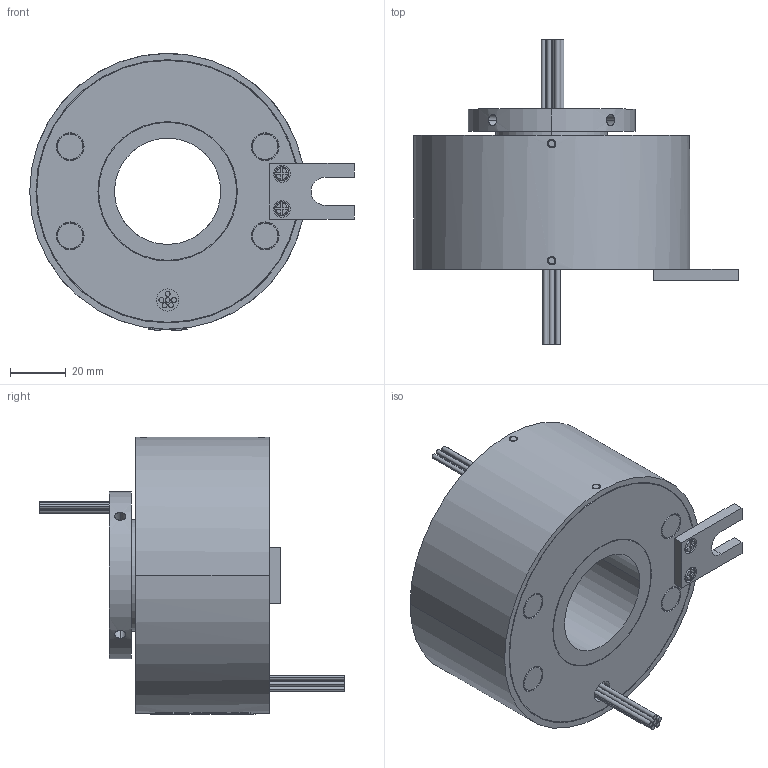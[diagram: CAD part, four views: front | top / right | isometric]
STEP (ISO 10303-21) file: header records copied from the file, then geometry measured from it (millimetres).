
FILE_DESCRIPTION(/* description */ (''),/* implementation_level */ '2;1');
FILE_NAME(/* name */ 'HD3899-0610.stp',/* time_stamp */ '2025-01-19T09:34:52+08:00',/* author */ (''),/* organization */ (''),/* preprocessor_version */ 'ST-DEVELOPER v16.7',/* originating_system */ 'SIEMENS PLM Software NX 12.0',/* authorisation */ '');
FILE_SCHEMA (('AUTOMOTIVE_DESIGN { 1 0 10303 214 3 1 1 1 }'));
Length unit declared in the file: millimetre
Products named in the file (1): HX05089CE4B9b9dt
Bounding box: 116.5 x 109.5 x 99.48 mm (x, y, z)
Volume: 329511.3 mm3; surface area: 48728.6 mm2
Topology: 1 solids, 1 shells, 582 faces, 1422 edges, 932 vertices
Faces by surface type: plane 288, cylinder 137, extrusion 88, torus 40, bspline 29
Entity records: 37154 total; most frequent: CARTESIAN_POINT 24370, ORIENTED_EDGE 2810, DIRECTION 2208, EDGE_CURVE 1405, VERTEX_POINT 932, AXIS2_PLACEMENT_3D 890, B_SPLINE_CURVE_WITH_KNOTS 729, EDGE_LOOP 709
